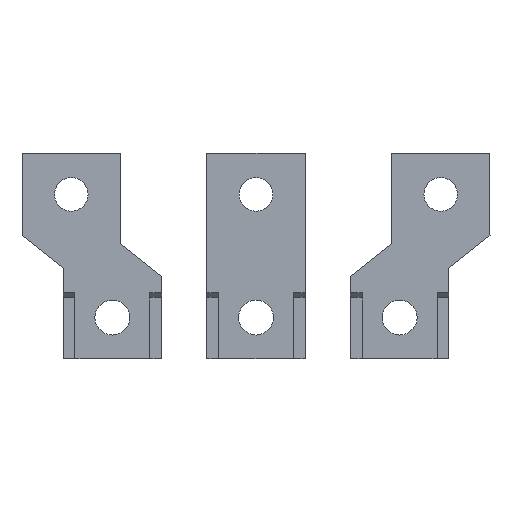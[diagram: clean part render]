
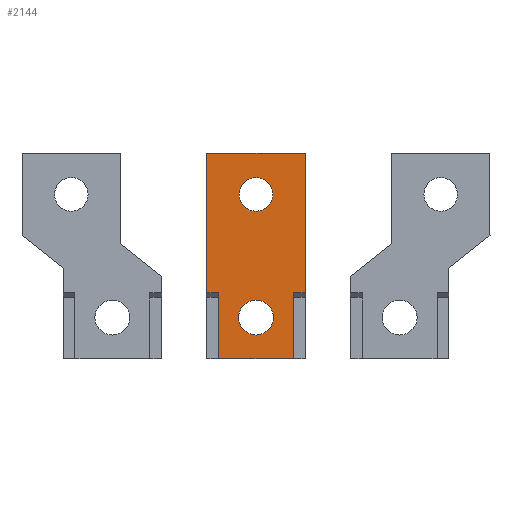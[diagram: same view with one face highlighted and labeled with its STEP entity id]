
A CAD part, top view. The second image highlights one B-rep face of the part: STEP entity #2144.
In plain terms, the highlighted planar face has unit normal (0, 0, 1).
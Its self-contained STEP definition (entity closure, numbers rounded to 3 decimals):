
#16 = CARTESIAN_POINT ( 'NONE',  ( -12., 76.3, 22.5 ) ) ;
#62 = EDGE_LOOP ( 'NONE', ( #331, #363 ) ) ;
#78 = LINE ( 'NONE', #1720, #3031 ) ;
#110 = AXIS2_PLACEMENT_3D ( 'NONE', #1073, #1885, #3518 ) ;
#126 = EDGE_CURVE ( 'NONE', #372, #2299, #139, .T. ) ;
#139 = LINE ( 'NONE', #2353, #228 ) ;
#228 = VECTOR ( 'NONE', #2090, 1000. ) ;
#245 = VERTEX_POINT ( 'NONE', #2441 ) ;
#267 = VECTOR ( 'NONE', #702, 1000. ) ;
#285 = CARTESIAN_POINT ( 'NONE',  ( -9.1, 75.3, 22.5 ) ) ;
#293 = EDGE_LOOP ( 'NONE', ( #1750, #1417, #3028, #317, #2811, #2940, #1373, #2676 ) ) ;
#317 = ORIENTED_EDGE ( 'NONE', *, *, #1296, .T. ) ;
#318 = EDGE_CURVE ( 'NONE', #3079, #1945, #1917, .T. ) ;
#330 = FACE_BOUND ( 'NONE', #62, .T. ) ;
#331 = ORIENTED_EDGE ( 'NONE', *, *, #2860, .F. ) ;
#337 = DIRECTION ( 'NONE',  ( 0., 1., 0. ) ) ;
#363 = ORIENTED_EDGE ( 'NONE', *, *, #2073, .F. ) ;
#372 = VERTEX_POINT ( 'NONE', #1089 ) ;
#381 = VECTOR ( 'NONE', #2435, 1000. ) ;
#458 = VERTEX_POINT ( 'NONE', #3305 ) ;
#596 = FACE_OUTER_BOUND ( 'NONE', #293, .T. ) ;
#702 = DIRECTION ( 'NONE',  ( 0., 1., 0. ) ) ;
#719 = CARTESIAN_POINT ( 'NONE',  ( -4.1, 100.3, 22.5 ) ) ;
#791 = DIRECTION ( 'NONE',  ( 1., 0., 0. ) ) ;
#909 = VECTOR ( 'NONE', #337, 1000. ) ;
#1004 = VERTEX_POINT ( 'NONE', #3199 ) ;
#1043 = CIRCLE ( 'NONE', #3374, 4.1 ) ;
#1073 = CARTESIAN_POINT ( 'NONE',  ( 0., 70.3, 22.5 ) ) ;
#1089 = CARTESIAN_POINT ( 'NONE',  ( -12., 110.3, 22.5 ) ) ;
#1091 = DIRECTION ( 'NONE',  ( -1., 0., 0. ) ) ;
#1099 = DIRECTION ( 'NONE',  ( -1., 0., 0. ) ) ;
#1199 = VERTEX_POINT ( 'NONE', #2404 ) ;
#1202 = VECTOR ( 'NONE', #3420, 1000. ) ;
#1221 = LINE ( 'NONE', #3134, #267 ) ;
#1222 = DIRECTION ( 'NONE',  ( -1., 0., 0. ) ) ;
#1296 = EDGE_CURVE ( 'NONE', #1199, #1004, #3153, .T. ) ;
#1310 = ORIENTED_EDGE ( 'NONE', *, *, #2192, .F. ) ;
#1368 = AXIS2_PLACEMENT_3D ( 'NONE', #3215, #2912, #791 ) ;
#1373 = ORIENTED_EDGE ( 'NONE', *, *, #1520, .T. ) ;
#1376 = VERTEX_POINT ( 'NONE', #2229 ) ;
#1383 = CARTESIAN_POINT ( 'NONE',  ( 0., 100.3, 22.5 ) ) ;
#1417 = ORIENTED_EDGE ( 'NONE', *, *, #2400, .F. ) ;
#1496 = FACE_BOUND ( 'NONE', #2923, .T. ) ;
#1514 = CARTESIAN_POINT ( 'NONE',  ( 12., 60.3, 22.5 ) ) ;
#1518 = CARTESIAN_POINT ( 'NONE',  ( -9.1, 76.3, 22.5 ) ) ;
#1520 = EDGE_CURVE ( 'NONE', #3079, #458, #1221, .T. ) ;
#1613 = CARTESIAN_POINT ( 'NONE',  ( 0., 76.3, 22.5 ) ) ;
#1655 = DIRECTION ( 'NONE',  ( -1., 0., 0. ) ) ;
#1720 = CARTESIAN_POINT ( 'NONE',  ( 0., 76.3, 22.5 ) ) ;
#1730 = EDGE_CURVE ( 'NONE', #458, #372, #2010, .T. ) ;
#1750 = ORIENTED_EDGE ( 'NONE', *, *, #126, .T. ) ;
#1762 = CARTESIAN_POINT ( 'NONE',  ( 0., 100.3, 22.5 ) ) ;
#1805 = EDGE_CURVE ( 'NONE', #1376, #2501, #3253, .T. ) ;
#1882 = AXIS2_PLACEMENT_3D ( 'NONE', #1383, #3275, #1655 ) ;
#1885 = DIRECTION ( 'NONE',  ( 0., 0., 1. ) ) ;
#1917 = LINE ( 'NONE', #1613, #3283 ) ;
#1945 = VERTEX_POINT ( 'NONE', #3338 ) ;
#2010 = LINE ( 'NONE', #2051, #2878 ) ;
#2051 = CARTESIAN_POINT ( 'NONE',  ( 12., 110.3, 22.5 ) ) ;
#2073 = EDGE_CURVE ( 'NONE', #245, #3378, #1043, .T. ) ;
#2090 = DIRECTION ( 'NONE',  ( 0., -1., 0. ) ) ;
#2112 = VERTEX_POINT ( 'NONE', #1518 ) ;
#2122 = AXIS2_PLACEMENT_3D ( 'NONE', #2964, #3219, #1091 ) ;
#2144 = ADVANCED_FACE ( 'NONE', ( #1496, #330, #596 ), #2664, .F. ) ;
#2192 = EDGE_CURVE ( 'NONE', #2501, #1376, #2410, .T. ) ;
#2229 = CARTESIAN_POINT ( 'NONE',  ( 4.25, 70.3, 22.5 ) ) ;
#2241 = LINE ( 'NONE', #285, #909 ) ;
#2242 = CARTESIAN_POINT ( 'NONE',  ( 12., 76.3, 22.5 ) ) ;
#2299 = VERTEX_POINT ( 'NONE', #16 ) ;
#2335 = DIRECTION ( 'NONE',  ( -1., 0., 0. ) ) ;
#2353 = CARTESIAN_POINT ( 'NONE',  ( -12., 110.3, 22.5 ) ) ;
#2357 = EDGE_CURVE ( 'NONE', #1199, #2112, #2241, .T. ) ;
#2400 = EDGE_CURVE ( 'NONE', #2112, #2299, #78, .T. ) ;
#2404 = CARTESIAN_POINT ( 'NONE',  ( -9.1, 60.3, 22.5 ) ) ;
#2410 = CIRCLE ( 'NONE', #110, 4.25 ) ;
#2435 = DIRECTION ( 'NONE',  ( 0., -1., 0. ) ) ;
#2441 = CARTESIAN_POINT ( 'NONE',  ( 4.1, 100.3, 22.5 ) ) ;
#2481 = CARTESIAN_POINT ( 'NONE',  ( 9.1, 60.3, 22.5 ) ) ;
#2501 = VERTEX_POINT ( 'NONE', #2893 ) ;
#2597 = DIRECTION ( 'NONE',  ( 0., 0., 1. ) ) ;
#2664 = PLANE ( 'NONE',  #1368 ) ;
#2676 = ORIENTED_EDGE ( 'NONE', *, *, #1730, .T. ) ;
#2754 = EDGE_CURVE ( 'NONE', #1945, #1004, #2859, .T. ) ;
#2811 = ORIENTED_EDGE ( 'NONE', *, *, #2754, .F. ) ;
#2859 = LINE ( 'NONE', #2481, #381 ) ;
#2860 = EDGE_CURVE ( 'NONE', #3378, #245, #3080, .T. ) ;
#2878 = VECTOR ( 'NONE', #2335, 1000. ) ;
#2893 = CARTESIAN_POINT ( 'NONE',  ( -4.25, 70.3, 22.5 ) ) ;
#2912 = DIRECTION ( 'NONE',  ( 0., 0., -1. ) ) ;
#2923 = EDGE_LOOP ( 'NONE', ( #1310, #3268 ) ) ;
#2940 = ORIENTED_EDGE ( 'NONE', *, *, #318, .F. ) ;
#2964 = CARTESIAN_POINT ( 'NONE',  ( 0., 70.3, 22.5 ) ) ;
#3028 = ORIENTED_EDGE ( 'NONE', *, *, #2357, .F. ) ;
#3031 = VECTOR ( 'NONE', #3088, 1000. ) ;
#3079 = VERTEX_POINT ( 'NONE', #2242 ) ;
#3080 = CIRCLE ( 'NONE', #1882, 4.1 ) ;
#3088 = DIRECTION ( 'NONE',  ( -1., 0., 0. ) ) ;
#3134 = CARTESIAN_POINT ( 'NONE',  ( 12., 110.3, 22.5 ) ) ;
#3153 = LINE ( 'NONE', #1514, #1202 ) ;
#3199 = CARTESIAN_POINT ( 'NONE',  ( 9.1, 60.3, 22.5 ) ) ;
#3215 = CARTESIAN_POINT ( 'NONE',  ( 0., 100.3, 22.5 ) ) ;
#3219 = DIRECTION ( 'NONE',  ( 0., 0., 1. ) ) ;
#3253 = CIRCLE ( 'NONE', #2122, 4.25 ) ;
#3268 = ORIENTED_EDGE ( 'NONE', *, *, #1805, .F. ) ;
#3275 = DIRECTION ( 'NONE',  ( 0., 0., 1. ) ) ;
#3283 = VECTOR ( 'NONE', #1099, 1000. ) ;
#3305 = CARTESIAN_POINT ( 'NONE',  ( 12., 110.3, 22.5 ) ) ;
#3338 = CARTESIAN_POINT ( 'NONE',  ( 9.1, 76.3, 22.5 ) ) ;
#3374 = AXIS2_PLACEMENT_3D ( 'NONE', #1762, #2597, #1222 ) ;
#3378 = VERTEX_POINT ( 'NONE', #719 ) ;
#3420 = DIRECTION ( 'NONE',  ( 1., 0., 0. ) ) ;
#3518 = DIRECTION ( 'NONE',  ( -1., 0., 0. ) ) ;
